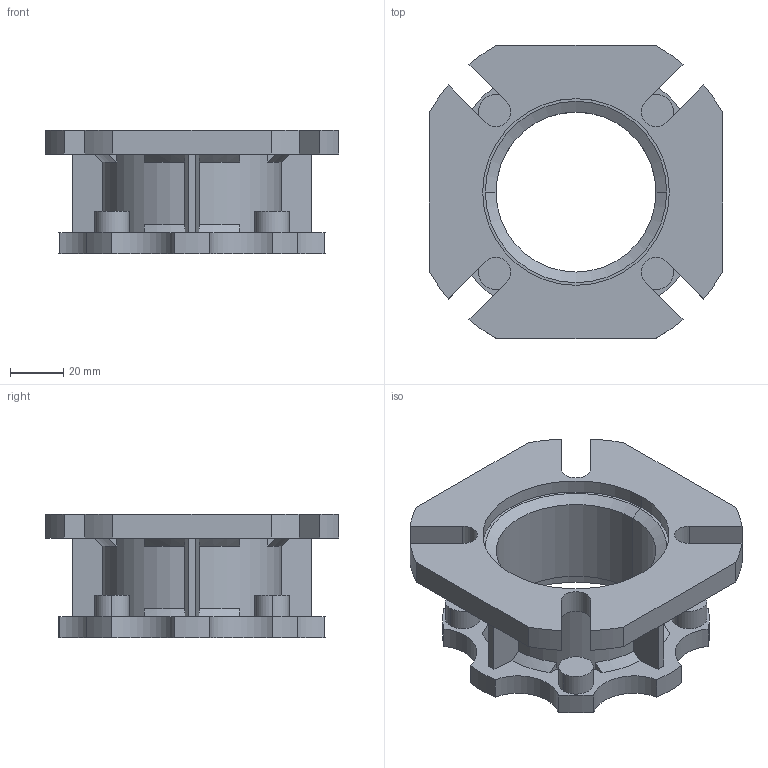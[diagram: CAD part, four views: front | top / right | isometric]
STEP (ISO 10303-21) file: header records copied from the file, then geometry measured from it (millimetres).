
FILE_DESCRIPTION(/* description */ (''),/* implementation_level */ '2;1');
FILE_NAME(/* name */ '1_FLANGIA (CAMPANA) LATERALE FA BA42',/* time_stamp */ '2025-10-22T11:37:05+02:00',/* author */ (''),/* organization */ (''),/* preprocessor_version */ 'ST-DEVELOPER v19.2',/* originating_system */ 'Rhino 8.23',/* authorisation */ '');
FILE_SCHEMA (('CONFIG_CONTROL_DESIGN'));
Length unit declared in the file: millimetre
Products named in the file (2): Document; BFUA42FA
Bounding box: 110 x 110 x 46.5 mm (x, y, z)
Volume: 115900.6 mm3; surface area: 46012.7 mm2
Topology: 1 solids, 1 shells, 116 faces, 314 edges, 208 vertices
Faces by surface type: plane 50, cylinder 46, bspline 20
Entity records: 5201 total; most frequent: CARTESIAN_POINT 1456, ORIENTED_EDGE 628, DIRECTION 360, EDGE_CURVE 314, AXIS2_PLACEMENT_3D 228, VERTEX_POINT 208, B_SPLINE_CURVE_WITH_KNOTS 186, TRIMMED_CURVE 128
